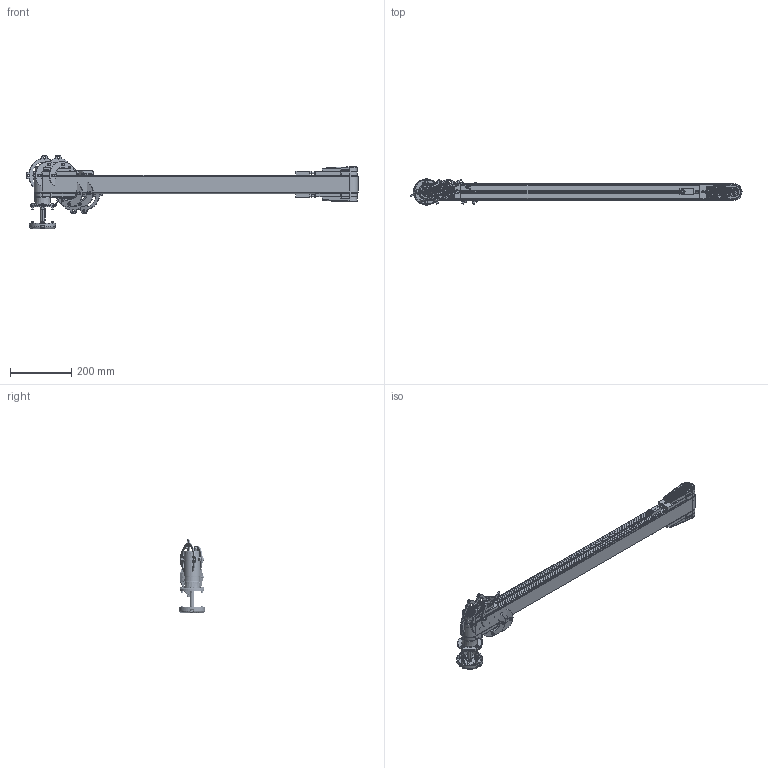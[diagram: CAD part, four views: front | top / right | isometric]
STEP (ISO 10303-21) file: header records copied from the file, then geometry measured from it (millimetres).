
FILE_DESCRIPTION (( 'STEP AP203' ), '1' );
FILE_NAME ('NASTRO_PISTE_PARALLELE.step', '2026-04-30T13:54:27', ( 'Utente Windows' ), ( '' ), 'SwSTEP 2.0', 'SolidWorks 2024', '' );
FILE_SCHEMA (( 'CONFIG_CONTROL_DESIGN' ));
Length unit declared in the file: millimetre
Products named in the file (29): 084.802.060_Default<A macchina>; LAMIERA_STANDARD; 084.815.124; 084.301.000 VITI ALUSIC_084.301.003; VITI TE UNI 5739_M6x16 UNI 5739; VITI TE UNI 5739_M8x12 UNI 5739; NASTRO_PISTE_PARALLELE; 084.803.018; 084.302.000 DADI ALUSIC 13x13_084.302.004; 084.815.125; TAPPETO_STANDARD; VITI TCEI UNI 5931_M4x12 UNI 5931; 084.802.062; D50_L50_TAPPETO_RINVIO_CORTO; 084.000.A47_VF30P; 084.802.017_084.802.017; 084.802.071; D50_L50_TAPPETO_TRAINO_CORTO_PISTA_SINGOLA_DX; 084.807.013_084.807.003; 084.802.061; TELAIO_45X60_Default<A macchina>; 084.808.014; CHIAVETTE_A 5x5x40 UNI 6604-69; 084.807.004_084.807.004; VITI TE UNI 5739_M6x12 UNI 5739; 084.000.A49_SA37; 084.808.012; 084.802.008; VITI TCEI UNI 5931_M6x12 UNI 5931
Assembly tree (63 placements, depth 4):
  NASTRO_PISTE_PARALLELE
    TAPPETO_STANDARD
    LAMIERA_STANDARD
    TELAIO_45X60_Default<A macchina>
    D50_L50_TAPPETO_TRAINO_CORTO_PISTA_SINGOLA_DX
      084.807.013_084.807.003
      084.802.017_084.802.017  x2
      084.815.124
      084.807.004_084.807.004
      084.802.071
      084.000.A49_SA37  x4
        084.808.014
        084.802.060_Default<A macchina>
        VITI TE UNI 5739_M8x12 UNI 5739
        084.802.062
        VITI TE UNI 5739_M6x12 UNI 5739
      084.000.A47_VF30P
        084.808.012
        084.802.062
        084.802.061
        VITI TE UNI 5739_M6x16 UNI 5739  x4
        084.803.018
        VITI TCEI UNI 5931_M6x12 UNI 5931  x4
      CHIAVETTE_A 5x5x40 UNI 6604-69
      VITI TCEI UNI 5931_M4x12 UNI 5931  x2
    D50_L50_TAPPETO_RINVIO_CORTO
      084.815.125
      084.301.000 VITI ALUSIC_084.301.003  x6
      084.302.000 DADI ALUSIC 13x13_084.302.004  x6
      084.807.013_084.807.003  x2
      084.802.017_084.802.017  x2
      084.802.008  x2
      084.802.071  x2
Bounding box: 1080.78 x 84.99 x 238.05 mm (x, y, z)
Volume: 1938722.5 mm3; surface area: 1429723.5 mm2
Topology: 97 solids, 101 shells, 5681 faces, 14536 edges, 9252 vertices
Faces by surface type: plane 2682, cylinder 1126, cone 856, bspline 624, torus 351, sphere 42
Entity records: 86289 total; most frequent: CARTESIAN_POINT 28506, ORIENTED_EDGE 11760, DIRECTION 10468, EDGE_CURVE 5880, VERTEX_POINT 3788, AXIS2_PLACEMENT_3D 3637, VECTOR 3194, LINE 3194
